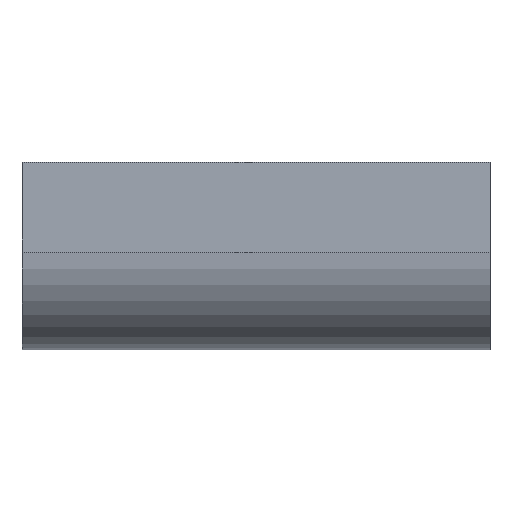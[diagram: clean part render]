
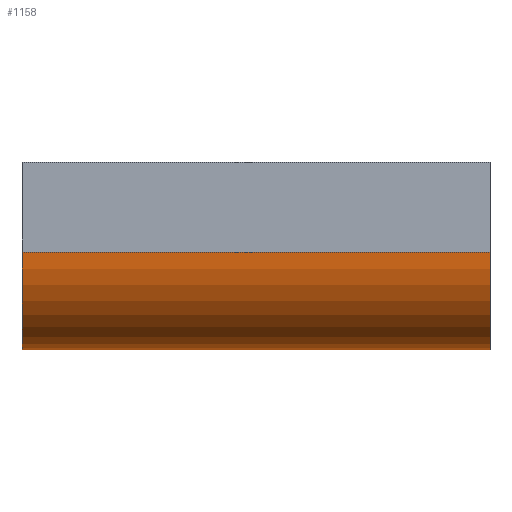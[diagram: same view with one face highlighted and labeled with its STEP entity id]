
A CAD part, front view. The second image highlights one B-rep face of the part: STEP entity #1158.
In plain terms, the highlighted cylindrical face has radius 125 mm (diameter 250 mm), a partial arc.
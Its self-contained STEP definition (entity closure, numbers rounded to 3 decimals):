
#3 = AXIS2_PLACEMENT_3D ( 'NONE', #1474, #938, #61 ) ;
#61 = DIRECTION ( 'NONE',  ( 0., 0., 1. ) ) ;
#151 = CIRCLE ( 'NONE', #1428, 125. ) ;
#160 = CARTESIAN_POINT ( 'NONE',  ( 300., 50., -240. ) ) ;
#168 = CARTESIAN_POINT ( 'NONE',  ( -300., 50., -115. ) ) ;
#194 = ORIENTED_EDGE ( 'NONE', *, *, #1576, .T. ) ;
#277 = DIRECTION ( 'NONE',  ( 0., 0., 1. ) ) ;
#317 = CARTESIAN_POINT ( 'NONE',  ( 300., -75., -115. ) ) ;
#423 = CYLINDRICAL_SURFACE ( 'NONE', #3, 125. ) ;
#447 = FACE_OUTER_BOUND ( 'NONE', #1238, .T. ) ;
#536 = AXIS2_PLACEMENT_3D ( 'NONE', #168, #820, #555 ) ;
#550 = EDGE_CURVE ( 'NONE', #1108, #1152, #151, .T. ) ;
#555 = DIRECTION ( 'NONE',  ( 0., 0., 1. ) ) ;
#560 = CARTESIAN_POINT ( 'NONE',  ( 300., -75., -115. ) ) ;
#562 = CARTESIAN_POINT ( 'NONE',  ( -300., -75., -115. ) ) ;
#563 = VECTOR ( 'NONE', #960, 1000. ) ;
#663 = DIRECTION ( 'NONE',  ( 1., 0., 0. ) ) ;
#664 = DIRECTION ( 'NONE',  ( -1., 0., 0. ) ) ;
#680 = CARTESIAN_POINT ( 'NONE',  ( 300., 50., -115. ) ) ;
#779 = CIRCLE ( 'NONE', #536, 125. ) ;
#820 = DIRECTION ( 'NONE',  ( 1., 0., 0. ) ) ;
#938 = DIRECTION ( 'NONE',  ( -1., 0., 0. ) ) ;
#960 = DIRECTION ( 'NONE',  ( -1., 0., 0. ) ) ;
#967 = VECTOR ( 'NONE', #664, 1000. ) ;
#1004 = ORIENTED_EDGE ( 'NONE', *, *, #1412, .F. ) ;
#1108 = VERTEX_POINT ( 'NONE', #560 ) ;
#1152 = VERTEX_POINT ( 'NONE', #1592 ) ;
#1158 = ADVANCED_FACE ( 'NONE', ( #447 ), #423, .T. ) ;
#1238 = EDGE_LOOP ( 'NONE', ( #194, #1004, #1384, #1623 ) ) ;
#1304 = VERTEX_POINT ( 'NONE', #1529 ) ;
#1320 = LINE ( 'NONE', #160, #967 ) ;
#1334 = LINE ( 'NONE', #317, #563 ) ;
#1384 = ORIENTED_EDGE ( 'NONE', *, *, #550, .F. ) ;
#1412 = EDGE_CURVE ( 'NONE', #1152, #1304, #1320, .T. ) ;
#1428 = AXIS2_PLACEMENT_3D ( 'NONE', #680, #663, #277 ) ;
#1474 = CARTESIAN_POINT ( 'NONE',  ( 300., 50., -115. ) ) ;
#1529 = CARTESIAN_POINT ( 'NONE',  ( -300., 50., -240. ) ) ;
#1573 = EDGE_CURVE ( 'NONE', #1108, #1595, #1334, .T. ) ;
#1576 = EDGE_CURVE ( 'NONE', #1595, #1304, #779, .T. ) ;
#1592 = CARTESIAN_POINT ( 'NONE',  ( 300., 50., -240. ) ) ;
#1595 = VERTEX_POINT ( 'NONE', #562 ) ;
#1623 = ORIENTED_EDGE ( 'NONE', *, *, #1573, .T. ) ;
